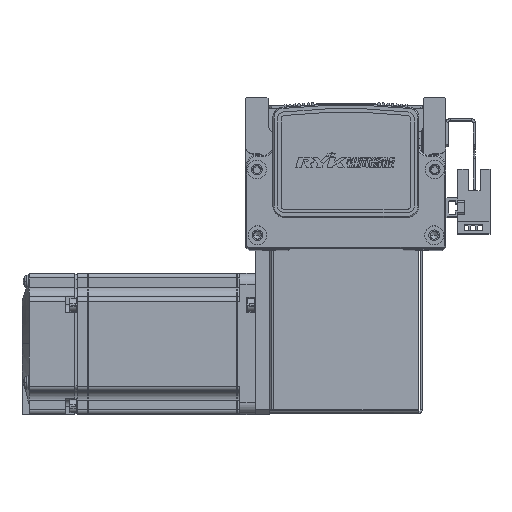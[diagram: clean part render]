
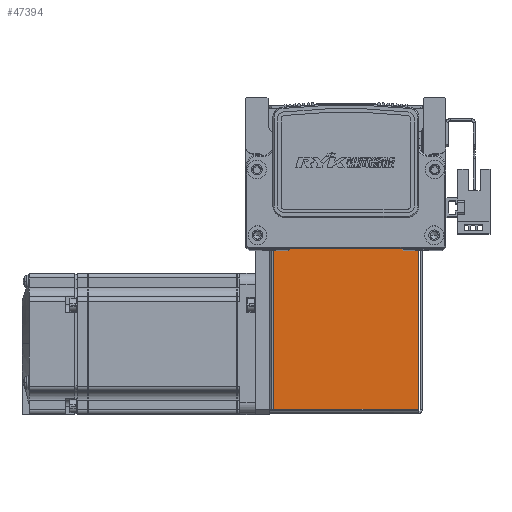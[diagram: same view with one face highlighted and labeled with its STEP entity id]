
A CAD part, top view. The second image highlights one B-rep face of the part: STEP entity #47394.
In plain terms, the highlighted planar face has unit normal (0, 0, 1) as drawn and (0, 0, -1) by its records, which use the part's own axes.
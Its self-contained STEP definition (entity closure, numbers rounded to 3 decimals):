
#185 = EDGE_LOOP ( 'NONE', ( #70926, #70887, #70922, #70873 ) ) ;
#11579 = PLANE ( 'NONE',  #63775 ) ;
#11593 = DIRECTION ( 'NONE',  ( 0., 0., 1. ) ) ;
#11594 = DIRECTION ( 'NONE',  ( 0., -1., 0. ) ) ;
#11613 = CARTESIAN_POINT ( 'NONE',  ( 0., 0., -35. ) ) ;
#18918 = CARTESIAN_POINT ( 'NONE',  ( -30.793, 72.5, -35. ) ) ;
#18927 = CARTESIAN_POINT ( 'NONE',  ( -30.793, 0.737, -35. ) ) ;
#18936 = CARTESIAN_POINT ( 'NONE',  ( 30.763, 72.5, -35. ) ) ;
#19002 = CARTESIAN_POINT ( 'NONE',  ( 30.763, 0.737, -35. ) ) ;
#20650 = FACE_OUTER_BOUND ( 'NONE', #185, .T. ) ;
#31636 = VERTEX_POINT ( 'NONE', #18927 ) ;
#31661 = VERTEX_POINT ( 'NONE', #18918 ) ;
#31668 = VERTEX_POINT ( 'NONE', #18936 ) ;
#31675 = VERTEX_POINT ( 'NONE', #19002 ) ;
#33462 = CARTESIAN_POINT ( 'NONE',  ( 32.5, 0.737, -35. ) ) ;
#33473 = CARTESIAN_POINT ( 'NONE',  ( -30.793, 0., -35. ) ) ;
#33475 = DIRECTION ( 'NONE',  ( 0., 1., 0. ) ) ;
#33493 = DIRECTION ( 'NONE',  ( 0., -1., 0. ) ) ;
#33519 = DIRECTION ( 'NONE',  ( 1., 0., 0. ) ) ;
#33529 = CARTESIAN_POINT ( 'NONE',  ( 30.763, 72.5, -35. ) ) ;
#34726 = DIRECTION ( 'NONE',  ( 1., 0., 0. ) ) ;
#34744 = CARTESIAN_POINT ( 'NONE',  ( 0., 72.5, -35. ) ) ;
#35898 = LINE ( 'NONE', #34744, #35913 ) ;
#35913 = VECTOR ( 'NONE', #34726, 1000. ) ;
#36012 = LINE ( 'NONE', #33473, #36029 ) ;
#36026 = LINE ( 'NONE', #33529, #36051 ) ;
#36029 = VECTOR ( 'NONE', #33475, 1000. ) ;
#36051 = VECTOR ( 'NONE', #33493, 1000. ) ;
#36063 = LINE ( 'NONE', #33462, #36065 ) ;
#36065 = VECTOR ( 'NONE', #33519, 1000. ) ;
#44779 = EDGE_CURVE ( 'NONE', #31661, #31668, #35898, .T. ) ;
#44854 = EDGE_CURVE ( 'NONE', #31668, #31675, #36026, .T. ) ;
#44858 = EDGE_CURVE ( 'NONE', #31636, #31661, #36012, .T. ) ;
#44865 = EDGE_CURVE ( 'NONE', #31636, #31675, #36063, .T. ) ;
#47394 = ADVANCED_FACE ( 'NONE', ( #20650 ), #11579, .F. ) ;
#63775 = AXIS2_PLACEMENT_3D ( 'NONE', #11613, #11593, #11594 ) ;
#70873 = ORIENTED_EDGE ( 'NONE', *, *, #44779, .T. ) ;
#70887 = ORIENTED_EDGE ( 'NONE', *, *, #44865, .F. ) ;
#70922 = ORIENTED_EDGE ( 'NONE', *, *, #44858, .T. ) ;
#70926 = ORIENTED_EDGE ( 'NONE', *, *, #44854, .T. ) ;
